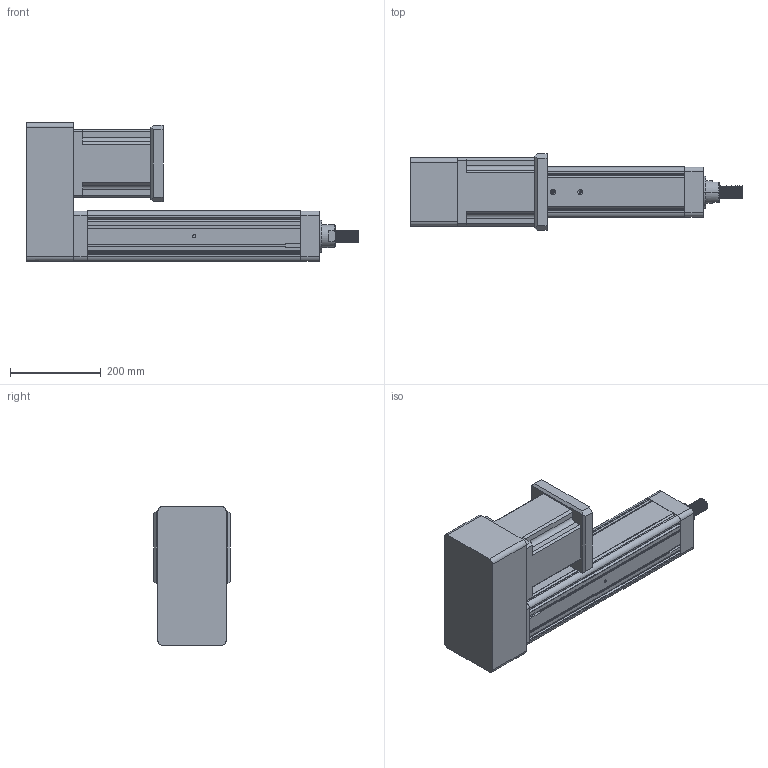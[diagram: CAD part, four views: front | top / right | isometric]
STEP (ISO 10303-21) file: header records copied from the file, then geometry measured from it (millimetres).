
FILE_DESCRIPTION (( 'STEP AP203' ), '1' );
FILE_NAME ('YRJ110-L300-H1K1.STEP', '2020-01-04T05:47:06', ( 'User' ), ( 'China' ), 'SwSTEP 2.0', 'SolidWorks 2016', '' );
FILE_SCHEMA (( 'CONFIG_CONTROL_DESIGN' ));
Length unit declared in the file: millimetre
Products named in the file (7): K1-110; 萇儂碟-110; 142熬厒儂; YRJ110-L300-H1K1; 095-100俴最倰第; H1-110-1; H1-110-2
Assembly tree (6 placements, depth 2):
  YRJ110-L300-H1K1
    095-100俴最倰第
    H1-110-1
    H1-110-2
    K1-110
    萇儂碟-110
    142熬厒儂
Bounding box: 731 x 168 x 305.5 mm (x, y, z)
Volume: 11779246.1 mm3; surface area: 897364.7 mm2
Topology: 6 solids, 6 shells, 364 faces, 1005 edges, 644 vertices
Faces by surface type: plane 165, cylinder 160, cone 35, bspline 4
Entity records: 20176 total; most frequent: CARTESIAN_POINT 10347, ORIENTED_EDGE 1962, DIRECTION 1833, EDGE_CURVE 981, VERTEX_POINT 644, LINE 613, VECTOR 613, AXIS2_PLACEMENT_3D 610
